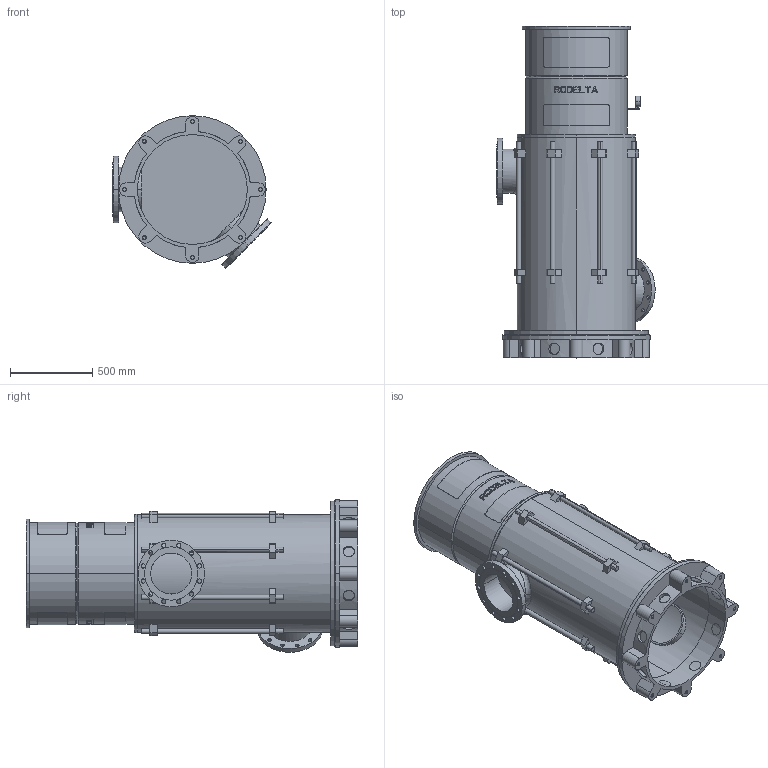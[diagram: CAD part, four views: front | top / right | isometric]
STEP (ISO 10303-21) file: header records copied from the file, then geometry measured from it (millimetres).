
FILE_DESCRIPTION((''),'2;1');
FILE_NAME('LS10_2TR_0GR_P_PN16','2025-10-20T12:05:29',('Lyritlocal'),(''),'CREO PARAMETRIC BY PTC INC, 2022014','CREO PARAMETRIC BY PTC INC, 2022014','');
FILE_SCHEMA(('CONFIG_CONTROL_DESIGN'));
Length unit declared in the file: millimetre
Products named in the file (1): LS10_2TR_0GR_P_PN16
Bounding box: 965.48 x 2023 x 930.48 mm (x, y, z)
Volume: 90073950.4 mm3; surface area: 12354676.8 mm2
Topology: 3 solids, 11 shells, 752 faces, 1934 edges, 1288 vertices
Faces by surface type: plane 462, cylinder 274, cone 12, bspline 4
Entity records: 24341 total; most frequent: CARTESIAN_POINT 5995, ORIENTED_EDGE 3836, DIRECTION 3662, EDGE_CURVE 1934, AXIS2_PLACEMENT_3D 1381, VERTEX_POINT 1288, EDGE_LOOP 924, VECTOR 900
